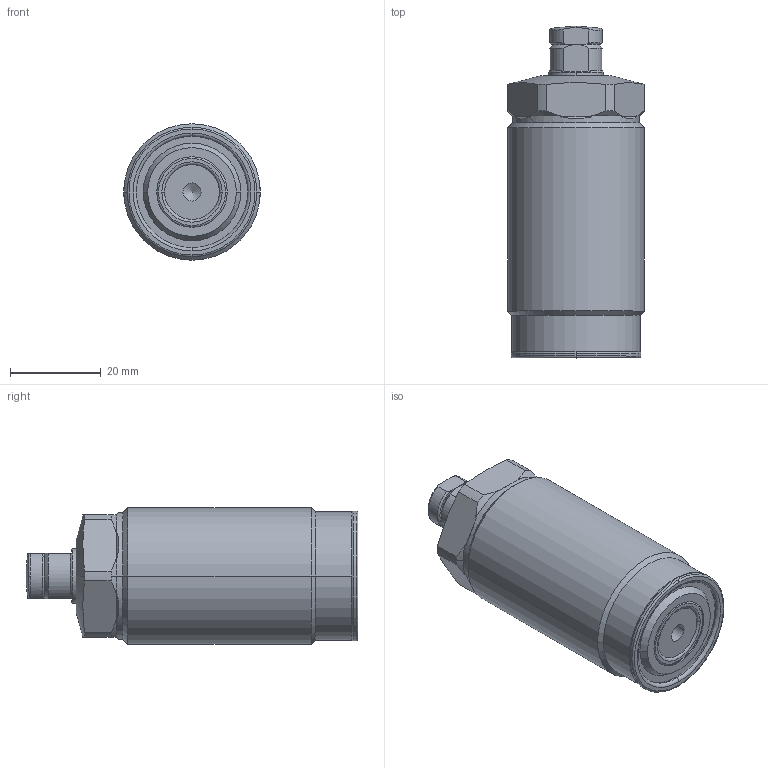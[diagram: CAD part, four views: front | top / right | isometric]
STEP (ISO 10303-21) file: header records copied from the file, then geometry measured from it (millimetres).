
FILE_DESCRIPTION(/* description */ (''),/* implementation_level */ '2;1');
FILE_NAME(/* name */ 'TSC30.stp',/* time_stamp */ '2025-01-10T14:55:33+08:00',/* author */ (''),/* organization */ (''),/* preprocessor_version */ 'ST-DEVELOPER v16.7',/* originating_system */ 'SIEMENS PLM Software NX 12.0',/* authorisation */ '');
FILE_SCHEMA (('AUTOMOTIVE_DESIGN { 1 0 10303 214 3 1 1 1 }'));
Length unit declared in the file: millimetre
Products named in the file (7): XLD-M8_contactbolt736; XLD-M8_Oring737; TSS30-Q-01; TSC30-03; TSC30-01; TSC30-04; TSC30_stp
Assembly tree (6 placements, depth 3):
  TSC30_stp
    TSC30-01
    TSC30-03
    TSC30-04
      XLD-M8_Oring737
      XLD-M8_contactbolt736
    TSS30-Q-01
Bounding box: 30 x 73 x 30 mm (x, y, z)
Volume: 41321.5 mm3; surface area: 9953.3 mm2
Topology: 5 solids, 5 shells, 143 faces, 326 edges, 202 vertices
Faces by surface type: cylinder 43, plane 36, torus 34, cone 28, sphere 2
Full cylindrical faces by diameter (mm): 4 x1
Entity records: 4349 total; most frequent: CARTESIAN_POINT 901, DIRECTION 769, ORIENTED_EDGE 644, AXIS2_PLACEMENT_3D 337, EDGE_CURVE 322, VERTEX_POINT 201, CIRCLE 187, EDGE_LOOP 158
